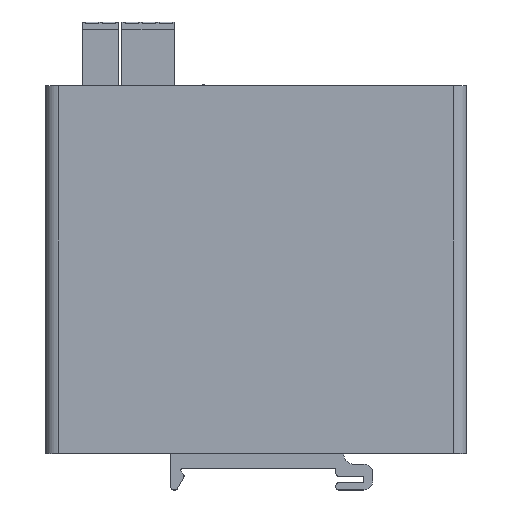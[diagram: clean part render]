
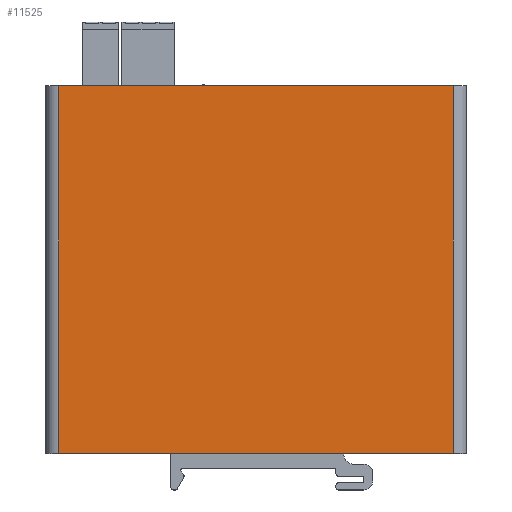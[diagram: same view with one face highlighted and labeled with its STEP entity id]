
A CAD part, top view. The second image highlights one B-rep face of the part: STEP entity #11525.
In plain terms, the highlighted planar face has unit normal (0, 0, 1).
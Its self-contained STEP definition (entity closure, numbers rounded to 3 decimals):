
#17=DIRECTION('',(0.,1.,0.));
#18=VECTOR('',#17,83.);
#19=CARTESIAN_POINT('',(44.5,-43.,15.));
#20=LINE('',#19,#18);
#833=DIRECTION('',(-1.,0.,0.));
#834=VECTOR('',#833,89.);
#835=CARTESIAN_POINT('',(44.5,-43.,15.));
#836=LINE('',#835,#834);
#837=DIRECTION('',(1.,0.,0.));
#838=VECTOR('',#837,89.);
#839=CARTESIAN_POINT('',(-44.5,40.,15.));
#840=LINE('',#839,#838);
#885=DIRECTION('',(0.,-1.,0.));
#886=VECTOR('',#885,83.);
#887=CARTESIAN_POINT('',(-44.5,40.,15.));
#888=LINE('',#887,#886);
#7733=CARTESIAN_POINT('',(44.5,40.,15.));
#7734=VERTEX_POINT('',#7733);
#7735=CARTESIAN_POINT('',(44.5,-43.,15.));
#7736=VERTEX_POINT('',#7735);
#7737=CARTESIAN_POINT('',(-44.5,40.,15.));
#7738=VERTEX_POINT('',#7737);
#8973=CARTESIAN_POINT('',(-44.5,-43.,15.));
#8974=VERTEX_POINT('',#8973);
#11512=CARTESIAN_POINT('',(0.,0.,15.));
#11513=DIRECTION('',(0.,0.,1.));
#11514=DIRECTION('',(1.,0.,0.));
#11515=AXIS2_PLACEMENT_3D('',#11512,#11513,#11514);
#11516=PLANE('',#11515);
#11517=ORIENTED_EDGE('',*,*,#10313,.F.);
#11519=ORIENTED_EDGE('',*,*,#11518,.T.);
#11521=ORIENTED_EDGE('',*,*,#11520,.F.);
#11522=ORIENTED_EDGE('',*,*,#10324,.T.);
#11523=EDGE_LOOP('',(#11517,#11519,#11521,#11522));
#11524=FACE_OUTER_BOUND('',#11523,.F.);
#10313=EDGE_CURVE('',#7736,#7734,#20,.T.);
#10324=EDGE_CURVE('',#7738,#7734,#840,.T.);
#11518=EDGE_CURVE('',#7736,#8974,#836,.T.);
#11520=EDGE_CURVE('',#7738,#8974,#888,.T.);
#11525=ADVANCED_FACE('',(#11524),#11516,.T.);
